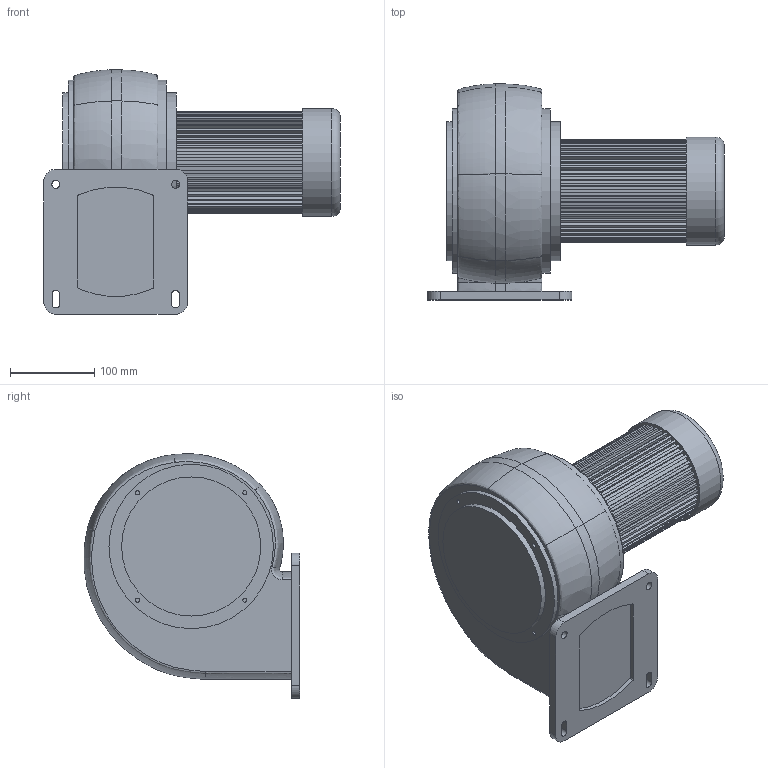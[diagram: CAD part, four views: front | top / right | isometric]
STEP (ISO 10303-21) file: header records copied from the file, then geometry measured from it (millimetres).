
FILE_DESCRIPTION(/* description */ ('Unknown'),/* implementation_level */ '2;1');
FILE_NAME(/* name */ '20200630 TS-405',/* time_stamp */ '2020-06-30T19:54:34+08:00',/* author */ ('å¤§èºè¨­è¨æéå¬å¸'),/* organization */ ('Unknown'),/* preprocessor_version */ 'ST-DEVELOPER v16.7',/* originating_system */ 'DEX',/* authorisation */ $);
FILE_SCHEMA (('AUTOMOTIVE_DESIGN {1 0 10303 214 3 1 1}'));
Length unit declared in the file: millimetre
Products named in the file (1): 20200630 TS-405
Bounding box: 352 x 256.12 x 290 mm (x, y, z)
Volume: 8570244.7 mm3; surface area: 387273.6 mm2
Topology: 1 solids, 1 shells, 272 faces, 779 edges, 521 vertices
Faces by surface type: plane 177, cylinder 78, bspline 16, torus 1
Full cylindrical faces by diameter (mm): 4.982 x4, 9.5 x2, 128 x1, 165 x2, 195 x2
Entity records: 13756 total; most frequent: CARTESIAN_POINT 6573, ORIENTED_EDGE 1530, DIRECTION 1422, EDGE_CURVE 765, LINE 570, VECTOR 570, VERTEX_POINT 519, AXIS2_PLACEMENT_3D 426
